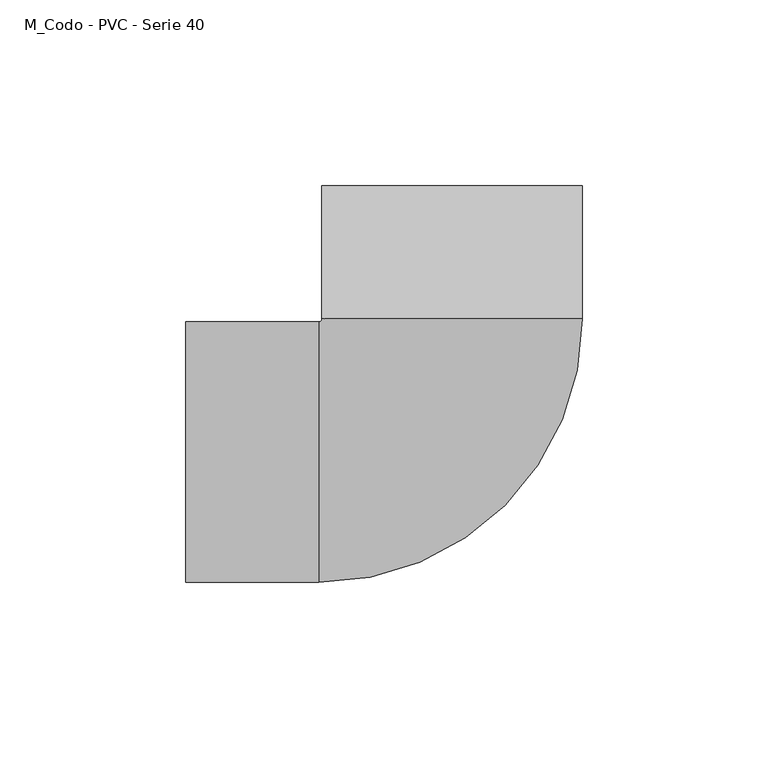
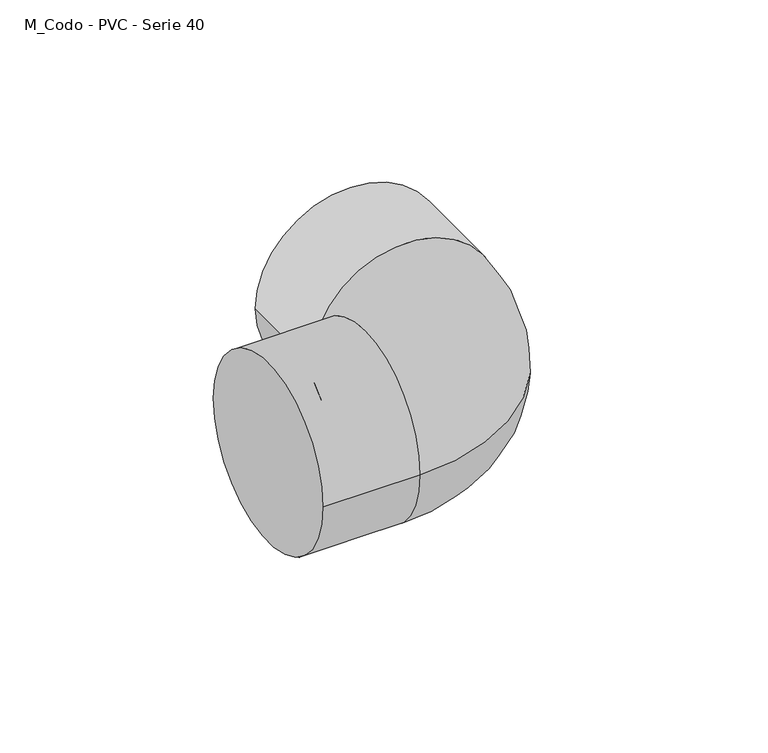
"""IFC4 building model written with IfcOpenShell, lengths in millimetres: pipe fitting geometry, M_Codo - PVC - Serie 40 : Estándar."""

from ifc_helpers import new_model, si_unit, point, frame, origin, place, context, project, spatial, circle_curve, ellipse_curve, trimmed, source, transform, mapped, element, save
from ifc_brep_helpers import plane_surface, cylinder_surface, revolved_surface, advanced_brep


def m_codo_pvc_serie_40_d13c4332(model_context):
    return source(origin(), model_context, "Body", "AdvancedBrep", [
        advanced_brep(
        [(-71.6915, -35.0400938, 0.0), (-71.6915, 35.0400937, 0.0), (-35.8338437, -35.0400938, 0.0), (-35.8338437, 35.0400937, 0.0), (-35.0400937, 35.8338437, 0.0), (35.0400938, 35.8338437, 0.0), (35.0400938, 71.6915, 0.0), (-35.0400937, 71.6915, 0.0)],
        [
            (0, 1, circle_curve(frame((-71.6915, 0.0, 0.0), z_axis=(-1.0, 0.0, 0.0), x_axis=(0.0, 1.0, 0.0)), 35.0400938)),
            (1, 0, circle_curve(frame((-71.6915, 0.0, 0.0), z_axis=(-1.0, 0.0, 0.0), x_axis=(0.0, 1.0, 0.0)), 35.0400938)),
            (0, 2),
            (2, 3, circle_curve(frame((-35.8338437, 0.0, 0.0), z_axis=(-1.0, 0.0, 0.0), x_axis=(0.0, 1.0, 0.0)), 35.0400938)),
            (3, 1),
            (3, 2, circle_curve(frame((-35.8338437, 0.0, 0.0), z_axis=(-1.0, 0.0, 0.0), x_axis=(0.0, 1.0, 0.0)), 35.0400938)),
            (4, 3, circle_curve(frame((-35.8338437, 35.8338437, 0.0), z_axis=(0.0, 0.0, -1.0), x_axis=(0.0, -1.0, 0.0)), 0.79375)),
            (2, 5, circle_curve(frame((-35.8338437, 35.8338437, 0.0), z_axis=(0.0, 0.0, 1.0), x_axis=(0.0, -1.0, 0.0)), 70.8739375)),
            (5, 4, circle_curve(frame((0.0, 35.8338437, 0.0), z_axis=(0.0, -1.0, 0.0), x_axis=(-1.0, 0.0, 0.0)), 35.0400938)),
            (4, 5, circle_curve(frame((0.0, 35.8338437, 0.0), z_axis=(0.0, -1.0, 0.0), x_axis=(-1.0, 0.0, 0.0)), 35.0400938)),
            (6, 7, circle_curve(frame((0.0, 71.6915, 0.0), z_axis=(0.0, 1.0, 0.0), x_axis=(-1.0, 0.0, 0.0)), 35.0400938)),
            (7, 6, circle_curve(frame((0.0, 71.6915, 0.0), z_axis=(0.0, 1.0, 0.0), x_axis=(-1.0, 0.0, 0.0)), 35.0400938)),
            (5, 6),
            (7, 4),
        ],
        [
            plane_surface(frame((-71.6915, 0.0, 0.0), z_axis=(-1.0, 0.0, 0.0), x_axis=(0.0, 0.0, 1.0))),
            cylinder_surface(frame((-71.6915, 0.0, 0.0), z_axis=(-1.0, 0.0, 0.0), x_axis=(0.0, 1.0, 0.0)), 35.0400938),
            revolved_surface(trimmed(ellipse_curve(frame((-35.8338437, 0.0, 0.0), z_axis=(-1.0, 0.0, 0.0), x_axis=(0.0, 1.0, 0.0)), 35.0400938, 35.0400938), [point((-35.8338437, -35.0400938, 0.0))], [point((-35.8338437, 35.0400937, 0.0))], True, "CARTESIAN"), (-35.8338437, 35.8338437, 0.0), (0.0, 0.0, 1.0)),
            revolved_surface(trimmed(ellipse_curve(frame((-35.8338437, 0.0, 0.0), z_axis=(-1.0, 0.0, 0.0), x_axis=(0.0, 1.0, 0.0)), 35.0400938, 35.0400938), [point((-35.8338437, 35.0400937, 0.0))], [point((-35.8338437, -35.0400938, 0.0))], True, "CARTESIAN"), (-35.8338437, 35.8338437, 0.0), (0.0, 0.0, 1.0)),
            plane_surface(frame((0.0, 71.6915, 0.0), z_axis=(0.0, 1.0, 0.0), x_axis=(0.0, 0.0, 1.0))),
            cylinder_surface(frame((0.0, 35.8338437, 0.0), z_axis=(0.0, -1.0, 0.0), x_axis=(-1.0, 0.0, 0.0)), 35.0400938),
        ],
        [
            (0, [[1, 2]]),
            (1, [[-1, 3, 4, 5]]),
            (1, [[-2, -5, 6, -3]]),
            (2, [[7, -4, 8, 9]]),
            (3, [[-8, -6, -7, 10]]),
            (4, [[11, 12]]),
            (5, [[-9, 13, -12, 14]]),
            (5, [[-10, -14, -11, -13]]),
        ],
    ),
    ])


if __name__ == "__main__":
    model = new_model("IFC4")
    model_context = context("Model", 3, world=origin())
    ifc_project = project(units=[si_unit("LENGTHUNIT", "METRE", prefix="MILLI")], contexts=[model_context])
    site = spatial("IfcSite", under=ifc_project)
    building = spatial("IfcBuilding", under=site)
    placement = place(None, origin())
    m_codo_pvc_serie_40_shape = m_codo_pvc_serie_40_d13c4332(model_context)
    element("IfcPipeFitting", 1, ObjectType="M_Codo - PVC - Serie 40 : Estándar", at=placement, inside=building, context=model_context, shape_type="MappedRepresentation", body=[
        mapped(m_codo_pvc_serie_40_shape, transform((0.0, 0.0, 0.0), x_axis=(1.0, 0.0, 0.0), y_axis=(0.0, 1.0, 0.0), z_axis=(0.0, 0.0, 1.0))),
    ])
    save(model, "model.ifc")
